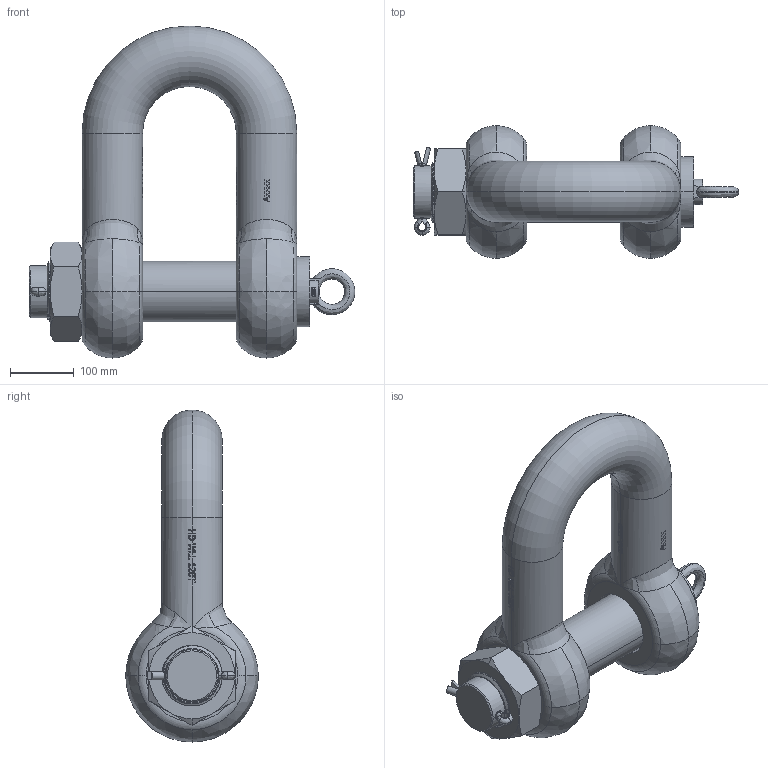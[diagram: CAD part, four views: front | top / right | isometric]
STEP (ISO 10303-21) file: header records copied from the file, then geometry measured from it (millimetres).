
FILE_DESCRIPTION(('STEP AP203'),'1');
FILE_NAME('hdgpdm0120.stp','2024-01-31T15:06:23',('TraceParts'),('TraceParts S.A.'),'Spatial InterOp 3D',' ',' ');
FILE_SCHEMA(('CONFIG_CONTROL_DESIGN'));
Length unit declared in the file: millimetre
Products named in the file (1): 1
Bounding box: 511 x 208 x 521 mm (x, y, z)
Volume: 12393927 mm3; surface area: 685556.9 mm2
Topology: 5 solids, 5 shells, 1174 faces, 4485 edges, 3337 vertices
Faces by surface type: plane 408, bspline 407, cylinder 309, cone 26, torus 24
Entity records: 78144 total; most frequent: CARTESIAN_POINT 47094, ORIENTED_EDGE 8950, EDGE_CURVE 4475, VERTEX_POINT 3337, B_SPLINE_CURVE_WITH_KNOTS 3115, DIRECTION 3034, EDGE_LOOP 1210, ADVANCED_FACE 1174
